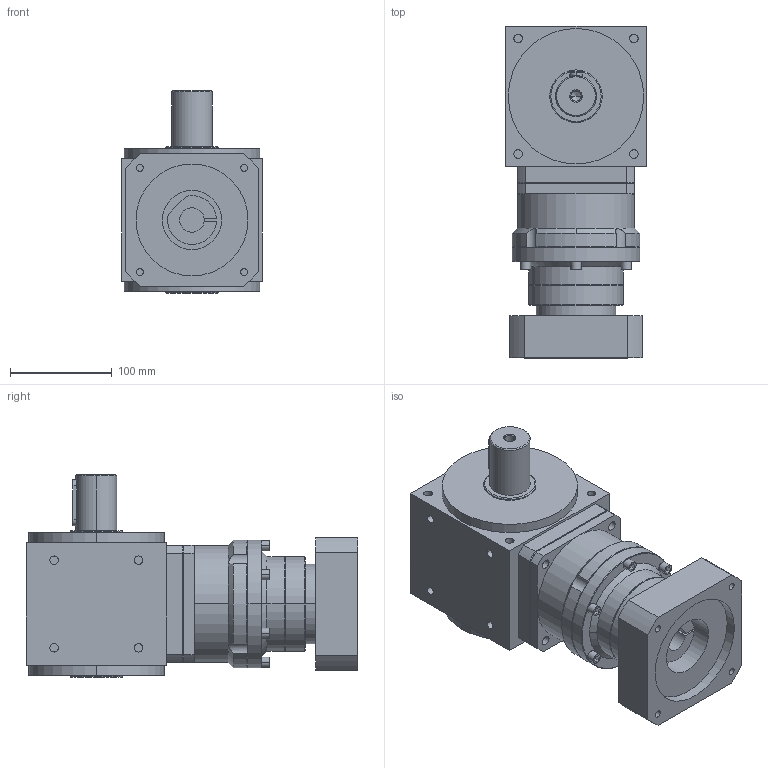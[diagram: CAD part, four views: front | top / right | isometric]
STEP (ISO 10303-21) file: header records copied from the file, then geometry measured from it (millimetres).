
FILE_DESCRIPTION (( 'STEP AP214' ), '1' );
FILE_NAME ('AAW135AS-L2-P 22-110-145-M8.STEP', '2025-04-08T09:20:13', ( '微软用户' ), ( '微软中国' ), 'SwSTEP 2.0', 'SolidWorks 2024', '' );
FILE_SCHEMA (( 'AUTOMOTIVE_DESIGN' ));
Length unit declared in the file: millimetre
Products named in the file (3): AAW135AS-P; VRB-115-L2-S2-P1 24-110-145-M8; AAW135AS-L2-P 22-110-145-M8
Assembly tree (2 placements, depth 2):
  AAW135AS-L2-P 22-110-145-M8
    AAW135AS-P
    VRB-115-L2-S2-P1 24-110-145-M8
Bounding box: 138 x 326 x 199 mm (x, y, z)
Volume: 4743347.3 mm3; surface area: 284731.3 mm2
Topology: 2 solids, 2 shells, 317 faces, 731 edges, 464 vertices
Faces by surface type: plane 136, cylinder 133, cone 36, torus 12
Entity records: 9608 total; most frequent: CARTESIAN_POINT 2062, DIRECTION 1691, ORIENTED_EDGE 1454, EDGE_CURVE 727, AXIS2_PLACEMENT_3D 672, VERTEX_POINT 464, EDGE_LOOP 375, CIRCLE 350
